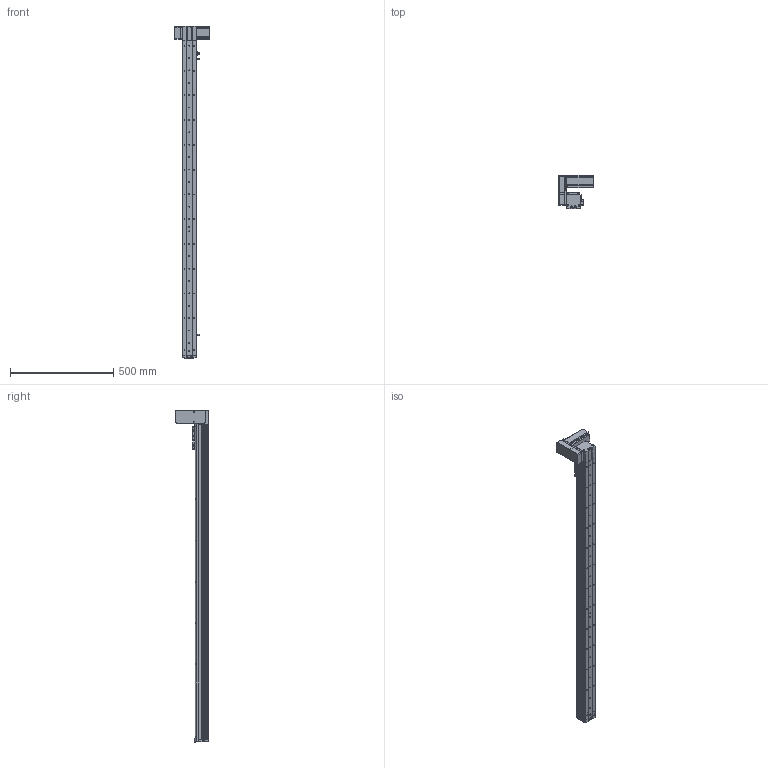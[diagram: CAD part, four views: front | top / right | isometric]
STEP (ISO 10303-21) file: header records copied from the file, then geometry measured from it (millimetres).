
FILE_DESCRIPTION (( 'STEP AP214' ), '1' );
FILE_NAME ('KSD68BS-S1350-MRU-CR.STEP', '2019-11-08T06:25:39', ( '微软用户' ), ( '微软中国' ), 'SwSTEP 2.0', 'SolidWorks 2014', '' );
FILE_SCHEMA (( 'AUTOMOTIVE_DESIGN' ));
Length unit declared in the file: millimetre
Products named in the file (14): 感应片68宽全封闭; U倰嫖萇EEㄜSX672; 台达ECMA－C20604AS伺服电机（400W); KSD68BS 1350行程底板全封闭; KSD68BS-S1350-MRU-CR; 68遵裔啣揤啣1; KSD68BS 1350行程盖板全封闭; 68宽单导轨全封闭丝杆传动安装板1防护罩; KSD68BS 1350行程侧板全封闭; 68宽单导轨全封闭同步带端板; 68单导轨全封闭同步带电机座右; 68单导轨全封闭同步带安装板; 悵誘欶奻狟殏; 68宽马达安装板连板上折同步带
Assembly tree (17 placements, depth 2):
  KSD68BS-S1350-MRU-CR
    KSD68BS 1350行程底板全封闭
    台达ECMA－C20604AS伺服电机（400W)
    U倰嫖萇EEㄜSX672  x3
    感应片68宽全封闭
    68宽马达安装板连板上折同步带
    悵誘欶奻狟殏
    68单导轨全封闭同步带安装板
    68单导轨全封闭同步带电机座右
    68宽单导轨全封闭同步带端板
    KSD68BS 1350行程侧板全封闭  x2
    68宽单导轨全封闭丝杆传动安装板1防护罩
    68遵裔啣揤啣1  x2
    KSD68BS 1350行程盖板全封闭
Bounding box: 167.2 x 159.5 x 1608.1 mm (x, y, z)
Volume: 3008610.9 mm3; surface area: 1194691.2 mm2
Topology: 18 solids, 18 shells, 1574 faces, 4511 edges, 2877 vertices
Faces by surface type: cylinder 763, plane 631, cone 180
Entity records: 50730 total; most frequent: CARTESIAN_POINT 8747, DIRECTION 7575, ORIENTED_EDGE 7242, EDGE_CURVE 3621, AXIS2_PLACEMENT_3D 2751, VERTEX_POINT 2375, VECTOR 2073, LINE 2073
